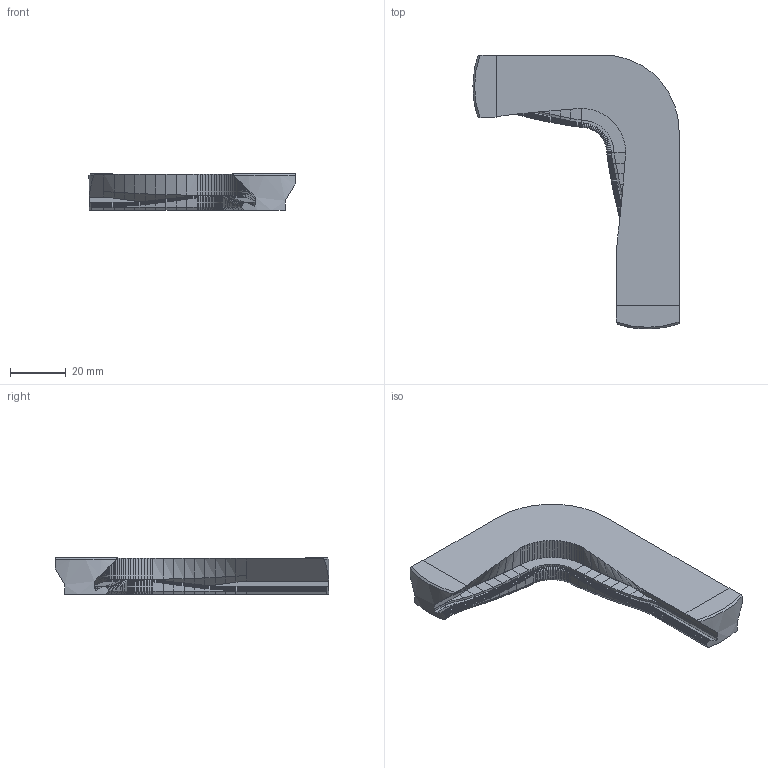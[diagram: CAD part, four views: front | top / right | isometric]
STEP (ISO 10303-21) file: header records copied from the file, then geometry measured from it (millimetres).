
FILE_DESCRIPTION(('Open CASCADE Model'),'2;1');
FILE_NAME('Open CASCADE Shape Model','2026-10-27T10:19:16',('Author'),( 'Open CASCADE'),'Open CASCADE STEP processor 8.0','build123d', 'Unknown');
FILE_SCHEMA(('AUTOMOTIVE_DESIGN { 1 0 10303 214 1 1 1 1 }'));
Products named in the file (1): SOLID
Bounding box: 74.1 x 98.5 x 13.25 mm (x, y, z)
Volume: 33392.4 mm3; surface area: 10955.1 mm2
Topology: 1 solids, 1 shells, 1407 faces, 2972 edges, 1567 vertices
Faces by surface type: bspline 1206, plane 194, cylinder 4, cone 3
Entity records: 72261 total; most frequent: CARTESIAN_POINT 19652, DIRECTION 6496, ORIENTED_EDGE 5944, PCURVE 5944, DEFINITIONAL_REPRESENTATION 5944, LINE 5876, VECTOR 5876, EDGE_CURVE 2972
